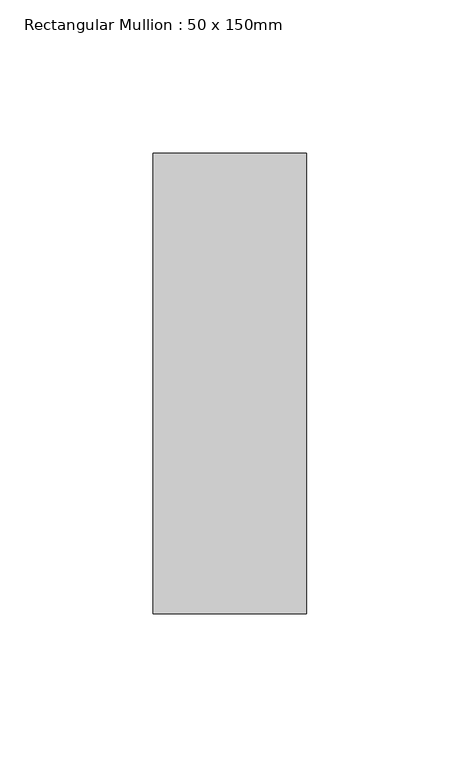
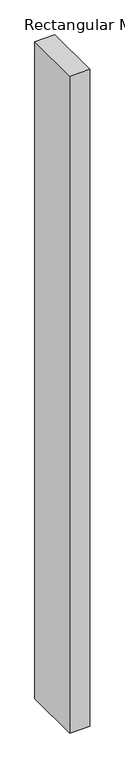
"""IFC4 building model written with IfcOpenShell, lengths in millimetres: member geometry, Rectangular Mullion : 50 x 150mm."""

from ifc_helpers import new_model, si_unit, frame, origin, place, context, project, spatial, polyline, outline, extrude, source, transform, mapped, element, save


def rectangular_mullion_50_x_150mm_22fa7329(model_context):
    return source(origin(), model_context, "Body", "SweptSolid", [
        extrude(outline(polyline([(0.0, 25.0), (0.0, -125.0), (-50.0, -125.0), (-50.0, 25.0), (0.0, 25.0)])), frame((0.0, 0.0, -1730.0), z_axis=(0.0, 0.0, 1.0), x_axis=(1.0, 0.0, 0.0)), (0.0, 0.0, 1.0), 1730.0),
    ])


if __name__ == "__main__":
    model = new_model("IFC4")
    model_context = context("Model", 3, world=origin())
    ifc_project = project(units=[si_unit("LENGTHUNIT", "METRE", prefix="MILLI")], contexts=[model_context])
    site = spatial("IfcSite", under=ifc_project)
    building = spatial("IfcBuilding", under=site)
    placement = place(None, origin())
    rectangular_mullion_50_x_150mm_shape = rectangular_mullion_50_x_150mm_22fa7329(model_context)
    element("IfcMember", 1, ObjectType="Rectangular Mullion : 50 x 150mm", at=placement, inside=building, context=model_context, shape_type="MappedRepresentation", body=[
        mapped(rectangular_mullion_50_x_150mm_shape, transform((0.0, 0.0, 0.0), x_axis=(1.0, 0.0, 0.0), y_axis=(0.0, 1.0, 0.0), z_axis=(0.0, 0.0, 1.0))),
    ])
    save(model, "model.ifc")
